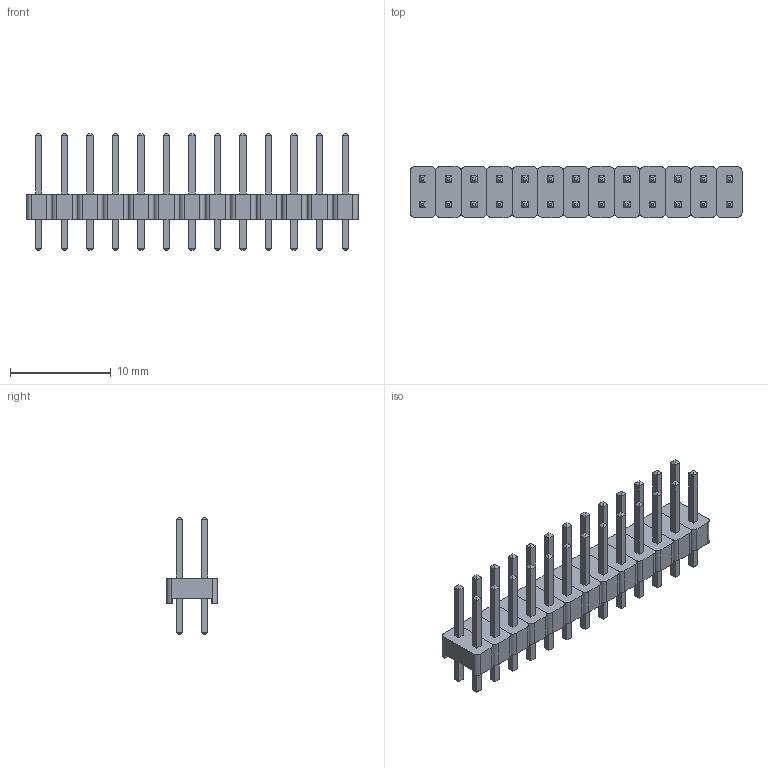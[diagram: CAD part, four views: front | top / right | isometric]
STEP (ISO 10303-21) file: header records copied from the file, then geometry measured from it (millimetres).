
FILE_DESCRIPTION(('FreeCAD Model'),'2;1');
FILE_NAME('Open CASCADE Shape Model','2022-04-06T15:58:54',( 'Engenharia Metaltex'),('Metaltex'), 'Open CASCADE STEP processor 7.5','FreeCAD','Unknown');
FILE_SCHEMA(('AUTOMOTIVE_DESIGN { 1 0 10303 214 1 1 1 1 }'));
Length unit declared in the file: millimetre
Products named in the file (53): BPDC; 13; Base012; Pino025; Pino026; 1; Base; Pino1; Pino2; 2; Base001; Pino003; Pino004; 3; Base002; Pino006; Pino005; 4; Base003; Pino008; Pino007; 5; Base004; Pino009; Pino010; 6; Base005; Pino012; Pino011; 7; Base006; Pino013; Pino014; 8; Base007; Pino015; Pino016; 9; Base008; Pino017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
Assembly tree (52 placements, depth 3):
  BPDC
    13
      Base012
      Pino025
      Pino026
    1
      Base
      Pino1
      Pino2
    2
      Base001
      Pino003
      Pino004
    3
      Base002
      Pino006
      Pino005
    4
      Base003
      Pino008
      Pino007
    5
      Base004
      Pino009
      Pino010
    6
      Base005
      Pino012
      Pino011
    7
      Base006
      Pino013
      Pino014
    8
      Base007
      Pino015
      Pino016
    9
      Base008
      Pino017
      Pino018
    10
      Base009
      Pino019
      Pino020
    11
      Base010
      Pino021
      Pino022
    12
      Base011
      Pino023
      Pino024
Bounding box: 33.02 x 5.08 x 11.54 mm (x, y, z)
Volume: 454 mm3; surface area: 1672.2 mm2
Topology: 39 solids, 39 shells, 650 faces, 1508 edges, 936 vertices
Faces by surface type: plane 598, cylinder 52
Entity records: 39019 total; most frequent: CARTESIAN_POINT 6475, DIRECTION 5982, LINE 4316, VECTOR 4316, ORIENTED_EDGE 3016, PCURVE 3016, DEFINITIONAL_REPRESENTATION 3016, EDGE_CURVE 1508
